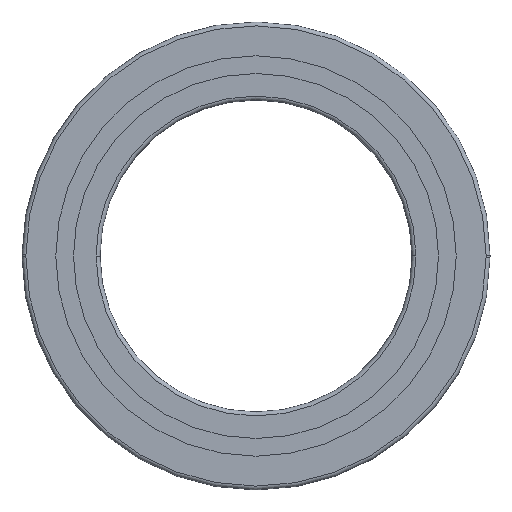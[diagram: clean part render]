
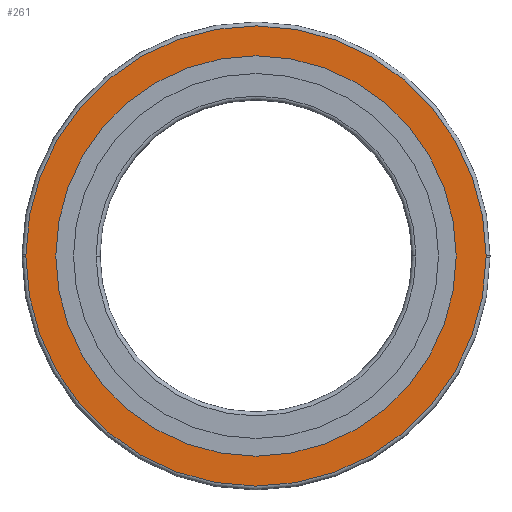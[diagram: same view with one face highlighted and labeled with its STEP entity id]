
A CAD part, front view. The second image highlights one B-rep face of the part: STEP entity #261.
In plain terms, the highlighted planar face has unit normal (0, -1, 0).
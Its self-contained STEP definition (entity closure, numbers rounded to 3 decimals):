
#255=EDGE_CURVE('',#323,#551,#657,.T.);
#261=ADVANCED_FACE('',(#663,#664),#665,.F.);
#279=EDGE_CURVE('',#613,#323,#685,.T.);
#323=VERTEX_POINT('',#737);
#343=EDGE_CURVE('',#553,#445,#758,.T.);
#365=EDGE_CURVE('',#371,#613,#783,.T.);
#371=VERTEX_POINT('',#789);
#427=EDGE_CURVE('',#445,#553,#852,.T.);
#445=VERTEX_POINT('',#876);
#551=VERTEX_POINT('',#994);
#553=VERTEX_POINT('',#996);
#559=EDGE_CURVE('',#551,#371,#1002,.T.);
#613=VERTEX_POINT('',#1062);
#657=CIRCLE('',#1107,88.5);
#663=FACE_OUTER_BOUND('',#1114,.T.);
#664=FACE_BOUND('',#1115,.T.);
#665=PLANE('',#1116);
#685=CIRCLE('',#1144,88.5);
#737=CARTESIAN_POINT('',(88.498,0.0,-0.549));
#758=CIRCLE('',#1234,77.0);
#783=CIRCLE('',#1263,88.5);
#789=CARTESIAN_POINT('',(-88.498,0.0,0.549));
#852=CIRCLE('',#1348,77.0);
#876=CARTESIAN_POINT('',(77.0,0.0,0.0));
#994=CARTESIAN_POINT('',(88.5,0.0,0.0));
#996=CARTESIAN_POINT('',(-77.0,0.0,0.0));
#1002=CIRCLE('',#1533,88.5);
#1062=CARTESIAN_POINT('',(-88.5,0.0,0.));
#1107=AXIS2_PLACEMENT_3D('',#1629,#1630,#1631);
#1114=EDGE_LOOP('',(#1636,#1637,#1638,#1639));
#1115=EDGE_LOOP('',(#1640,#1641));
#1116=AXIS2_PLACEMENT_3D('',#1642,#1643,#1644);
#1144=AXIS2_PLACEMENT_3D('',#1672,#1673,#1674);
#1234=AXIS2_PLACEMENT_3D('',#1782,#1783,#1784);
#1263=AXIS2_PLACEMENT_3D('',#1818,#1819,#1820);
#1348=AXIS2_PLACEMENT_3D('',#1908,#1909,#1910);
#1533=AXIS2_PLACEMENT_3D('',#2099,#2100,#2101);
#1629=CARTESIAN_POINT('',(0.0,0.0,0.0));
#1630=DIRECTION('',(0.0,-1.0,0.0));
#1631=DIRECTION('',(-1.0,0.0,0.0));
#1636=ORIENTED_EDGE('',*,*,#559,.T.);
#1637=ORIENTED_EDGE('',*,*,#365,.T.);
#1638=ORIENTED_EDGE('',*,*,#279,.T.);
#1639=ORIENTED_EDGE('',*,*,#255,.T.);
#1640=ORIENTED_EDGE('',*,*,#343,.F.);
#1641=ORIENTED_EDGE('',*,*,#427,.F.);
#1642=CARTESIAN_POINT('',(0.0,0.0,0.0));
#1643=DIRECTION('',(0.0,1.0,0.0));
#1644=DIRECTION('',(1.0,0.0,-0.0));
#1672=CARTESIAN_POINT('',(0.0,0.0,0.0));
#1673=DIRECTION('',(0.0,-1.0,0.0));
#1674=DIRECTION('',(-1.0,0.0,0.0));
#1782=CARTESIAN_POINT('',(0.0,0.0,0.0));
#1783=DIRECTION('',(0.0,-1.0,0.0));
#1784=DIRECTION('',(-1.0,0.0,0.0));
#1818=CARTESIAN_POINT('',(0.0,0.0,0.0));
#1819=DIRECTION('',(0.0,-1.0,0.0));
#1820=DIRECTION('',(1.0,0.0,0.0));
#1908=CARTESIAN_POINT('',(0.0,0.0,0.0));
#1909=DIRECTION('',(0.0,-1.0,0.0));
#1910=DIRECTION('',(1.0,0.0,0.0));
#2099=CARTESIAN_POINT('',(0.0,0.0,0.0));
#2100=DIRECTION('',(0.0,-1.0,0.0));
#2101=DIRECTION('',(1.0,0.0,0.0));
